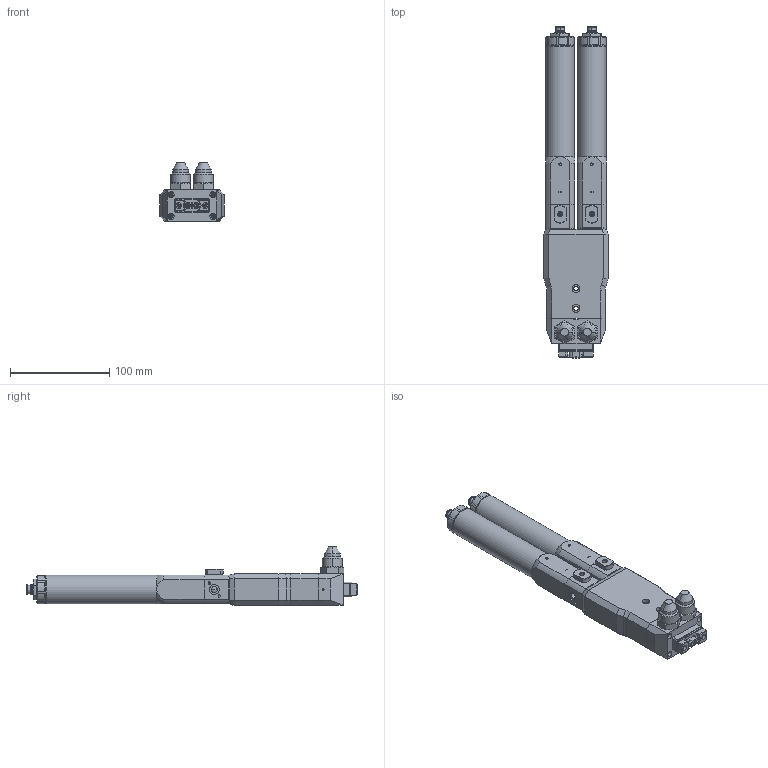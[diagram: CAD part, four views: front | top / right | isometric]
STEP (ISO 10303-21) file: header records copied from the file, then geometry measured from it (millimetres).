
FILE_DESCRIPTION (( 'STEP AP214' ), '1' );
FILE_NAME ('PDPM-1000-150BA.STEP', '2024-10-11T12:24:32', ( '' ), ( '' ), 'SwSTEP 2.0', 'SolidWorks 2024', '' );
FILE_SCHEMA (( 'AUTOMOTIVE_DESIGN' ));
Length unit declared in the file: millimetre
Products named in the file (1): PDPM-1000-150BA
Bounding box: 65 x 335 x 59.3 mm (x, y, z)
Volume: 506153.4 mm3; surface area: 118080.2 mm2
Topology: 13 solids, 13 shells, 1345 faces, 3340 edges, 2102 vertices
Faces by surface type: plane 522, cylinder 505, cone 275, bspline 25, torus 12, sphere 6
Full cylindrical faces by diameter (mm): 29 x2
Entity records: 56911 total; most frequent: CARTESIAN_POINT 25547, ORIENTED_EDGE 6594, DIRECTION 6409, EDGE_CURVE 3297, AXIS2_PLACEMENT_3D 2468, VERTEX_POINT 2101, EDGE_LOOP 1510, LINE 1473
